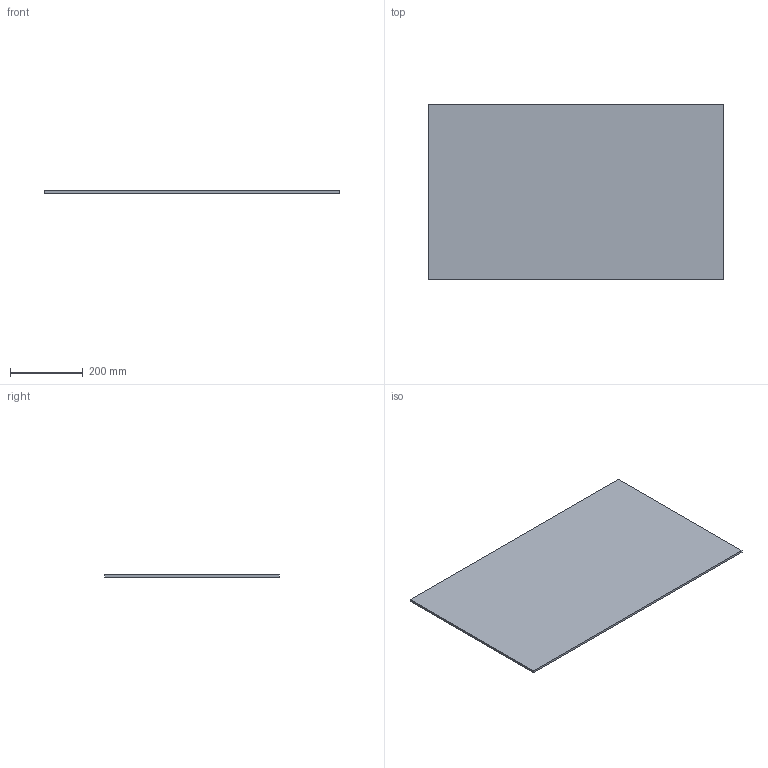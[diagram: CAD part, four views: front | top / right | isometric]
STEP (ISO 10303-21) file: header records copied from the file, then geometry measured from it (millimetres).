
FILE_DESCRIPTION (( 'STEP AP214' ), '1' );
FILE_NAME ('Lochblech_NL500_KAB900_16.step', '2010-10-11T13:38:35', ( 'grass' ), ( '' ), 'SwSTEP 2.0', 'SolidWorks 2010', '' );
FILE_SCHEMA (( 'AUTOMOTIVE_DESIGN' ));
Length unit declared in the file: millimetre
Products named in the file (1): Lochblech_NL500_KAB900_16
Bounding box: 808 x 479 x 6 mm (x, y, z)
Volume: 2322192 mm3; surface area: 789508 mm2
Topology: 1 solids, 1 shells, 6 faces, 12 edges, 8 vertices
Faces by surface type: plane 6
Entity records: 190 total; most frequent: CARTESIAN_POINT 27, DIRECTION 26, ORIENTED_EDGE 24, EDGE_CURVE 12, VECTOR 12, LINE 12, VERTEX_POINT 8, AXIS2_PLACEMENT_3D 7
